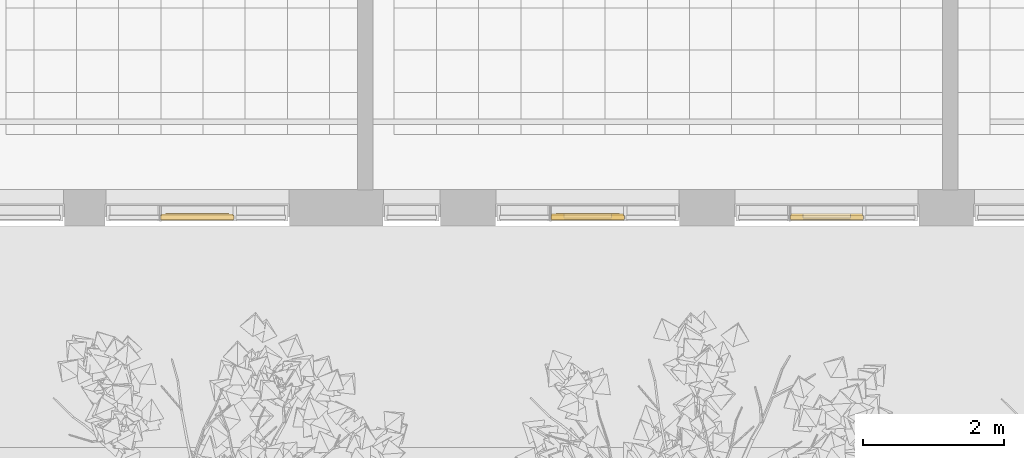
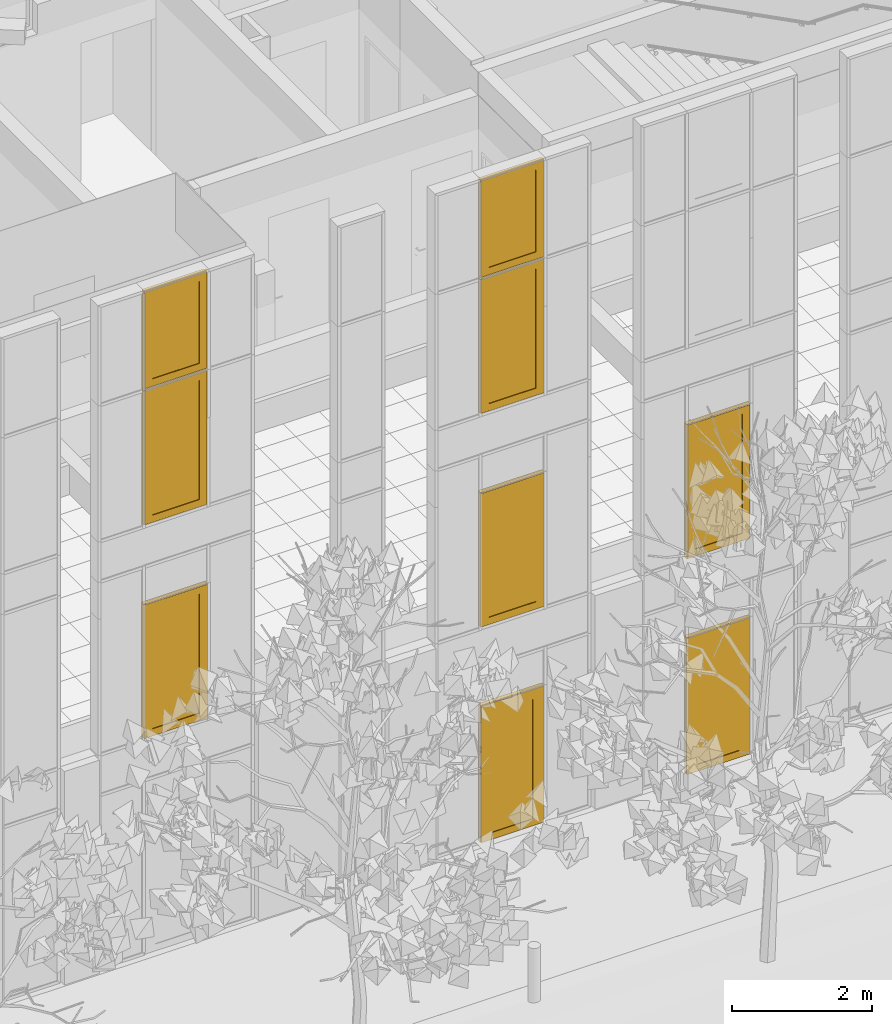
# One storey, part 148 of 246: 7 windows, 2 doors, 3 elements without a shape of their own.
"""IFC2X3 building model written with IfcOpenShell, lengths in millimetres."""

import ifcopenshell
import ifcopenshell.guid

model = None  # the IFC model being written
_history = None  # IfcOwnerHistory: only IFC2X3 demands one
_inside = {}  # id of a spatial element -> (the spatial element, [elements in it])
_under = {}  # id of a project, library or spatial element -> (it, [spatial elements below it])
_declared = {}  # id of a project -> (the project, [libraries it declares])
_typed = {}  # id of a type object -> (the type object, [elements of that type])
_made_of = {}  # id of a material, layer set ... -> (it, [elements and type objects made of it])


def new_model(schema):
    """Start an empty IFC model of exactly this schema.

    Asked for "IFC4X3", IfcOpenShell would pick the latest addendum, in which some entities
    have other attributes; the version numbers below select the first issue.
    IFC2X3 requires an IfcOwnerHistory on every rooted entity: one is made here for all.
    """
    global model, _history
    if schema == "IFC4X3":
        model = ifcopenshell.file(schema_version=(4, 3, 0, 0))
    else:
        model = ifcopenshell.file(schema=schema)
    _inside.clear()
    _under.clear()
    _declared.clear()
    _typed.clear()
    _made_of.clear()
    _history = None
    if model.schema == "IFC2X3":
        org = make("IfcOrganization", Name="unknown")
        user = make(
            "IfcPersonAndOrganization",
            ThePerson=make("IfcPerson", FamilyName="unknown"),
            TheOrganization=org,
        )
        app = make(
            "IfcApplication",
            ApplicationDeveloper=org,
            Version="unknown",
            ApplicationFullName="unknown",
            ApplicationIdentifier="unknown",
        )
        _history = make(
            "IfcOwnerHistory",
            OwningUser=user,
            OwningApplication=app,
            ChangeAction="ADDED",
            CreationDate=0,
        )
    return model


def make(cls, **values):
    """One entity of the class cls with the attributes given. An attribute that is None is left unset."""
    return model.create_entity(
        cls, **{name: value for name, value in values.items() if value is not None}
    )


def entity(cls, *values):
    """Any entity or typed value of the class cls, its attributes in the order of the schema. None: left unset."""
    e = model.create_entity(cls)
    for i, value in enumerate(values):
        if value is not None:
            e[i] = value
    return e


def rooted(cls, **values):
    """An entity with a GlobalId (a new one), such as an element, a storey or a relation."""
    return make(cls, GlobalId=ifcopenshell.guid.new(), OwnerHistory=_history, **values)


def si_unit(unit_type, name, prefix=None):
    """IfcSIUnit, for example si_unit("LENGTHUNIT", "METRE", prefix="MILLI")."""
    return make("IfcSIUnit", UnitType=unit_type, Prefix=prefix, Name=name)


def converted_unit(unit_type, name, factor, base, dimensions=None, offset=None):
    """IfcConversionBasedUnit, such as the inch: factor (a typed value) times the base unit."""
    return make(
        "IfcConversionBasedUnit"
        if offset is None
        else "IfcConversionBasedUnitWithOffset",
        ConversionOffset=offset,
        Dimensions=None
        if dimensions is None
        else entity("IfcDimensionalExponents", *dimensions),
        UnitType=unit_type,
        Name=name,
        ConversionFactor=make(
            "IfcMeasureWithUnit", ValueComponent=factor, UnitComponent=base
        ),
    )


def derived_unit(unit_type, elements):
    """IfcDerivedUnit: a product of units, each with its exponent."""
    return make(
        "IfcDerivedUnit",
        Elements=[
            make("IfcDerivedUnitElement", Unit=unit, Exponent=power)
            for unit, power in elements
        ],
        UnitType=unit_type,
    )


def money_unit(currency):
    """IfcMonetaryUnit."""
    return make("IfcMonetaryUnit", Currency=currency)


def assignment(units):
    """IfcUnitAssignment: the units of a project."""
    return None if units is None else make("IfcUnitAssignment", Units=units)


def point(xyz):
    """IfcCartesianPoint."""
    return None if xyz is None else make("IfcCartesianPoint", Coordinates=xyz)


def direction(xyz):
    """IfcDirection."""
    return None if xyz is None else make("IfcDirection", DirectionRatios=xyz)


def frame(location, z_axis=None, x_axis=None):
    """IfcAxis2Placement3D, a coordinate frame: its origin and axes. An axis left out is left unset."""
    return make(
        "IfcAxis2Placement3D",
        Location=point(location),
        Axis=direction(z_axis),
        RefDirection=direction(x_axis),
    )


def origin_with_axes():
    """The frame at (0, 0, 0) with the z axis (0, 0, 1) and the x axis (1, 0, 0) written out."""
    return frame((0.0, 0.0, 0.0), z_axis=(0.0, 0.0, 1.0), x_axis=(1.0, 0.0, 0.0))


def place(relative_to, where):
    """IfcLocalPlacement: puts the frame where relative to a parent placement (None: the world)."""
    return make(
        "IfcLocalPlacement", PlacementRelTo=relative_to, RelativePlacement=where
    )


def context(
    kind, dimensions, precision=None, world=None, true_north=None, identifier=None
):
    """IfcGeometricRepresentationContext, for example the 3D "Model" context."""
    return make(
        "IfcGeometricRepresentationContext",
        ContextIdentifier=identifier,
        ContextType=kind,
        CoordinateSpaceDimension=dimensions,
        Precision=precision,
        WorldCoordinateSystem=world,
        TrueNorth=true_north,
    )


def subcontext(parent, identifier, kind, view, scale=None):
    """IfcGeometricRepresentationSubContext, for example "Body" below "Model"."""
    return make(
        "IfcGeometricRepresentationSubContext",
        ContextIdentifier=identifier,
        ContextType=kind,
        ParentContext=parent,
        TargetScale=scale,
        TargetView=view,
    )


def project(units=None, contexts=None):
    """IfcProject with its units and contexts."""
    return rooted(
        "IfcProject",
        Name="project",
        RepresentationContexts=contexts,
        UnitsInContext=assignment(units),
    )


def spatial(cls, under=None, at=None, **own):
    """A site, building, storey or space (cls), placed at a placement, below another one or the project."""
    s = rooted(cls, ObjectPlacement=at, **own)
    if under is not None:
        _under.setdefault(under.id(), (under, []))[1].append(s)
    return s


def faces_of(points, faces, orient=None, outer=None):
    """IfcFace entities. A face is a list of loops; a loop is a list of indices into points, from 0.

    orient and outer hold one flag for each loop. By default every Orientation is true, the
    first loop of a face is its IfcFaceOuterBound and the others are IfcFaceBound.
    """
    made = []
    for i, loops in enumerate(faces):
        bounds = []
        for j, loop in enumerate(loops):
            is_outer = j == 0 if outer is None else outer[i][j]
            bounds.append(
                make(
                    "IfcFaceOuterBound" if is_outer else "IfcFaceBound",
                    Bound=make("IfcPolyLoop", Polygon=[points[k] for k in loop]),
                    Orientation=True if orient is None else orient[i][j],
                )
            )
        made.append(make("IfcFace", Bounds=bounds))
    return made


def open_shell(faces, orient=None, outer=None):
    """The faces of one IfcOpenShell. surface_model builds it on its shared points."""
    return ("IfcOpenShell", faces, orient, outer)


def faceted_brep(points, faces, orient=None, outer=None, voids=None):
    """IfcFacetedBrep: a solid bounded by flat faces; with voids (closed shells), ...WithVoids."""
    shared = [point(p) for p in points]
    hull = make("IfcClosedShell", CfsFaces=faces_of(shared, faces, orient, outer))
    if voids is None:
        return make("IfcFacetedBrep", Outer=hull)
    return make(
        "IfcFacetedBrepWithVoids",
        Outer=hull,
        Voids=[
            make(cls, CfsFaces=faces_of(shared, fs, o, b)) for cls, fs, o, b in voids
        ],
    )


def surface_model(cls, points, shells):
    """IfcFaceBasedSurfaceModel or IfcShellBasedSurfaceModel (cls): surfaces that need not close."""
    shared = [point(p) for p in points]
    made = [make(c, CfsFaces=faces_of(shared, fs, o, b)) for c, fs, o, b in shells]
    if cls == "IfcFaceBasedSurfaceModel":
        return make(cls, FbsmFaces=made)
    return make(cls, SbsmBoundary=made)


def shape(context_of_items, identifier, shape_type, items):
    """IfcShapeRepresentation: the items that make up one representation, for example the "Body"."""
    return make(
        "IfcShapeRepresentation",
        ContextOfItems=context_of_items,
        RepresentationIdentifier=identifier,
        RepresentationType=shape_type,
        Items=items,
    )


def source(mapping_origin, context_of_items, identifier, shape_type, items):
    """IfcRepresentationMap: a shape defined once, which mapped items show again and again."""
    return make(
        "IfcRepresentationMap",
        MappingOrigin=mapping_origin,
        MappedRepresentation=shape(context_of_items, identifier, shape_type, items),
    )


def transform(
    local_origin,
    x_axis=None,
    y_axis=None,
    z_axis=None,
    scale=None,
    scale2=None,
    scale3=None,
    uniform=True,
):
    """IfcCartesianTransformationOperator3D, or its non-uniform kind. x_axis, y_axis, z_axis: its Axis1, 2, 3."""
    if uniform:
        return make(
            "IfcCartesianTransformationOperator3D",
            Axis1=direction(x_axis),
            Axis2=direction(y_axis),
            LocalOrigin=point(local_origin),
            Scale=scale,
            Axis3=direction(z_axis),
        )
    return make(
        "IfcCartesianTransformationOperator3DnonUniform",
        Axis1=direction(x_axis),
        Axis2=direction(y_axis),
        LocalOrigin=point(local_origin),
        Scale=scale,
        Axis3=direction(z_axis),
        Scale2=scale2,
        Scale3=scale3,
    )


def mapped(mapping_source, mapping_target):
    """IfcMappedItem: shows the shape of a source again, moved by a transform."""
    return make(
        "IfcMappedItem", MappingSource=mapping_source, MappingTarget=mapping_target
    )


def material(Name=None, Category=None):
    """IfcMaterial."""
    return make("IfcMaterial", Name=Name, Category=Category)


def material_list(materials):
    """IfcMaterialList."""
    return make("IfcMaterialList", Materials=materials)


def made_of(thing, what):
    """Note that an element or type object is made of a material, layer set ...; save() writes the relation."""
    if what is not None:
        _made_of.setdefault(what.id(), (what, []))[1].append(thing)
    return thing


def type_object(cls, material=None, **own):
    """A type object (cls), such as IfcWallType, which elements share."""
    return made_of(rooted(cls, **own), material)


def element(
    cls,
    number,
    at=None,
    inside=None,
    cuts=None,
    type_object=None,
    material=None,
    context=None,
    identifier="Body",
    shape_type=None,
    held_by="IfcProductDefinitionShape",
    body=None,
    shapes=None,
    **own,
):
    """One element of the class cls, such as IfcWall. Its Tag is "e" and its number.

    at: its placement. inside: the storey or other place that contains it. cuts: it is an
    opening in that element (IfcRelVoidsElement). A single representation is given by context,
    identifier, shape_type and body (its items); several are given by shapes. held_by: the class
    of the entity that holds the representations. save() writes the other relations.
    """
    e = rooted(cls, Tag="e%d" % number, ObjectPlacement=at, **own)
    if body is not None:
        shapes = [shape(context, identifier, shape_type, body)]
    if shapes is not None:
        e.Representation = make(held_by, Representations=shapes)
    if inside is not None:
        _inside.setdefault(inside.id(), (inside, []))[1].append(e)
    if cuts is not None:
        rooted(
            "IfcRelVoidsElement", RelatingBuildingElement=cuts, RelatedOpeningElement=e
        )
    if type_object is not None:
        _typed.setdefault(type_object.id(), (type_object, []))[1].append(e)
    return made_of(e, material)


def aggregate(whole, parts):
    """IfcRelAggregates: a whole, such as a stair, and the parts it consists of."""
    return rooted("IfcRelAggregates", RelatingObject=whole, RelatedObjects=parts)


def save(model, path):
    """Write the relations noted so far, then the file.

    IfcRelAggregates (storeys below a building ...), IfcRelContainedInSpatialStructure (elements
    in a storey), IfcRelDefinesByType, IfcRelAssociatesMaterial and IfcRelDeclares: one each for
    every whole, place, type object, material and project.
    """
    for whole, parts in _under.values():
        aggregate(whole, parts)
    for where, things in _inside.values():
        rooted(
            "IfcRelContainedInSpatialStructure",
            RelatedElements=things,
            RelatingStructure=where,
        )
    for kind, things in _typed.values():
        rooted("IfcRelDefinesByType", RelatedObjects=things, RelatingType=kind)
    for what, things in _made_of.values():
        rooted("IfcRelAssociatesMaterial", RelatedObjects=things, RelatingMaterial=what)
    for by, libraries in _declared.values():
        rooted("IfcRelDeclares", RelatingContext=by, RelatedDefinitions=libraries)
    model.write(path)


model = new_model("IFC2X3")

# Units and contexts
model_context = context("Model", 3, precision=0.01, world=origin_with_axes(), true_north=direction((0.0, 1.0)))
body_context = subcontext(model_context, "Body", "Model", "MODEL_VIEW")
ifc_project = project(units=[si_unit("LENGTHUNIT", "METRE", prefix="MILLI"), si_unit("AREAUNIT", "SQUARE_METRE"), si_unit("VOLUMEUNIT", "CUBIC_METRE"), converted_unit("PLANEANGLEUNIT", "DEGREE", entity("IfcPlaneAngleMeasure", 0.0174532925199), si_unit("PLANEANGLEUNIT", "RADIAN"), dimensions=[0, 0, 0, 0, 0, 0, 0]), si_unit("SOLIDANGLEUNIT", "STERADIAN"), money_unit("EUR"), converted_unit("TIMEUNIT", "Year", entity("IfcTimeMeasure", 31556926.0), si_unit("TIMEUNIT", "SECOND"), dimensions=[0, 0, 1, 0, 0, 0, 0]), si_unit("MASSUNIT", "GRAM", prefix="KILO"), si_unit("THERMODYNAMICTEMPERATUREUNIT", "DEGREE_CELSIUS"), si_unit("LUMINOUSINTENSITYUNIT", "LUMEN"), si_unit("ENERGYUNIT", "JOULE", prefix="MEGA"), derived_unit("THERMALCONDUCTANCEUNIT", [(si_unit("POWERUNIT", "WATT"), 1), (si_unit("LENGTHUNIT", "METRE"), -1), (si_unit("THERMODYNAMICTEMPERATUREUNIT", "KELVIN"), -1)]), derived_unit("SPECIFICHEATCAPACITYUNIT", [(si_unit("ENERGYUNIT", "JOULE"), 1), (si_unit("MASSUNIT", "GRAM", prefix="KILO"), -1), (si_unit("THERMODYNAMICTEMPERATUREUNIT", "KELVIN"), -1)]), derived_unit("MASSDENSITYUNIT", [(si_unit("MASSUNIT", "GRAM", prefix="KILO"), 1), (si_unit("VOLUMEUNIT", "CUBIC_METRE"), -1)])], contexts=[model_context])

# Site, building, storey
site_placement = place(None, origin_with_axes())
site = spatial("IfcSite", under=ifc_project, at=site_placement, Name="L.Koidula tn 11b", CompositionType="ELEMENT")
building_placement = place(site_placement, origin_with_axes())
building = spatial("IfcBuilding", under=site, at=building_placement, Name="Rakvere Riigigümnaasium", CompositionType="ELEMENT")
storey_placement = place(building_placement, origin_with_axes())
storey = spatial("IfcBuildingStorey", under=building, at=storey_placement, Name="1.korrus 0,00", CompositionType="ELEMENT", Elevation=0.0)

# Curtain wall, door
curtain_wall_type = type_object("IfcCurtainWallType", Name="Curtain Wall Type", PredefinedType="NOTDEFINED")
curtain_wall_1_placement = place(storey_placement, frame((72896.908541, 5111.45334637, -8.09717227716e-06), z_axis=(0.0, 0.0, 1.0), x_axis=(1.0, 0.0, 0.0)))
curtain_wall_1 = element("IfcCurtainWall", 1, at=curtain_wall_1_placement, inside=storey, type_object=curtain_wall_type, Name="KLF-05-3B")
ifc_material_1 = material(Name="Alumiiniumprofiil (RAL 7021)")
ifc_material_2 = material(Name="Klaaspakett 3x ribikardinatega")
ifc_material_list = material_list([ifc_material_1, ifc_material_2])
door_style = type_object("IfcDoorStyle", Name="8 x 2351 x 54", ConstructionType="NOTDEFINED", OperationType="NOTDEFINED", ParameterTakesPrecedence=False, Sizeable=False)
shared_shape_1 = source(origin_with_axes(), body_context, "Body", "SurfaceModel", [
    surface_model("IfcShellBasedSurfaceModel", [(1045.0, 0.0, -53.0), (992.0, 0.0, -53.0), (992.0, 2322.0, -53.0), (1045.0, 2375.0, -53.0)], [open_shell([[[0, 1, 2, 3]]])]),
    surface_model("IfcShellBasedSurfaceModel", [(25.0, 2375.0, -53.0), (1045.0, 2375.0, -53.0), (992.0, 2322.0, -53.0), (78.0, 2322.0, -53.0)], [open_shell([[[0, 1, 2, 3]]])]),
    surface_model("IfcShellBasedSurfaceModel", [(25.0, 0.0, -53.0), (25.0, 2375.0, -53.0), (78.0, 2322.0, -53.0), (78.0, 0.0, -53.0)], [open_shell([[[0, 1, 2, 3]]])]),
    faceted_brep([(1045.0, 0.0, -53.0), (1045.0, 2375.0, -53.0), (1045.0, 2375.0, 37.0), (1045.0, 0.0, 37.0), (992.0, 0.0, -53.0), (992.0, 2322.0, -53.0), (992.0, 2322.0, 37.0), (992.0, 0.0, 37.0)], [[[0, 1, 2, 3]], [[0, 4, 5, 1]], [[1, 5, 6, 2]], [[3, 2, 6, 7]], [[4, 0, 3, 7]], [[5, 4, 7, 6]]]),
    faceted_brep([(25.0, 2375.0, -53.0), (78.0, 2322.0, -53.0), (78.0, 2322.0, 37.0), (25.0, 2375.0, 37.0), (1045.0, 2375.0, -53.0), (992.0, 2322.0, -53.0), (992.0, 2322.0, 37.0), (1045.0, 2375.0, 37.0)], [[[0, 1, 2, 3]], [[0, 4, 5, 1]], [[1, 5, 6, 2]], [[3, 2, 6, 7]], [[4, 0, 3, 7]], [[5, 4, 7, 6]]]),
    faceted_brep([(25.0, 0.0, -53.0), (78.0, 0.0, -53.0), (78.0, 0.0, 37.0), (25.0, 0.0, 37.0), (25.0, 2375.0, -53.0), (78.0, 2322.0, -53.0), (78.0, 2322.0, 37.0), (25.0, 2375.0, 37.0)], [[[0, 1, 2, 3]], [[0, 4, 5, 1]], [[1, 5, 6, 2]], [[3, 2, 6, 7]], [[4, 0, 3, 7]], [[5, 4, 7, 6]]]),
    faceted_brep([(1058.0, 0.0, -27.0), (1058.0, 2388.0, -27.0), (1058.0, 2388.0, 27.0), (1058.0, 0.0, 27.0), (1045.0, 0.0, -27.0), (1045.0, 2375.0, -27.0), (1045.0, 2375.0, 27.0), (1045.0, 0.0, 27.0)], [[[0, 1, 2, 3]], [[0, 4, 5, 1]], [[1, 5, 6, 2]], [[3, 2, 6, 7]], [[4, 0, 3, 7]], [[5, 4, 7, 6]]]),
    faceted_brep([(1058.0, 2388.0, -27.0), (12.0, 2388.0, -27.0), (12.0, 2388.0, 27.0), (1058.0, 2388.0, 27.0), (1045.0, 2375.0, -27.0), (25.0, 2375.0, -27.0), (25.0, 2375.0, 27.0), (1045.0, 2375.0, 27.0)], [[[0, 1, 2, 3]], [[0, 4, 5, 1]], [[1, 5, 6, 2]], [[3, 2, 6, 7]], [[4, 0, 3, 7]], [[5, 4, 7, 6]]]),
    faceted_brep([(12.0, 2388.0, -27.0), (12.0, 0.0, -27.0), (12.0, 0.0, 27.0), (12.0, 2388.0, 27.0), (25.0, 2375.0, -27.0), (25.0, 0.0, -27.0), (25.0, 0.0, 27.0), (25.0, 2375.0, 27.0)], [[[0, 1, 2, 3]], [[0, 4, 5, 1]], [[1, 5, 6, 2]], [[3, 2, 6, 7]], [[4, 0, 3, 7]], [[5, 4, 7, 6]]]),
    faceted_brep([(197.0, 119.0, -53.0), (197.0, 2203.0, -53.0), (197.0, 2203.0, 37.0), (197.0, 119.0, 37.0), (78.0, 0.0, -53.0), (78.0, 2322.0, -53.0), (78.0, 2322.0, 37.0), (78.0, 0.0, 37.0)], [[[0, 1, 2, 3]], [[0, 4, 5, 1]], [[1, 5, 6, 2]], [[3, 2, 6, 7]], [[4, 0, 3, 7]], [[5, 4, 7, 6]]]),
    faceted_brep([(992.0, 0.0, -53.0), (992.0, 2322.0, -53.0), (992.0, 2322.0, 37.0), (992.0, 0.0, 37.0), (873.0, 119.0, -53.0), (873.0, 2203.0, -53.0), (873.0, 2203.0, 37.0), (873.0, 119.0, 37.0)], [[[0, 1, 2, 3]], [[0, 4, 5, 1]], [[1, 5, 6, 2]], [[3, 2, 6, 7]], [[4, 0, 3, 7]], [[5, 4, 7, 6]]]),
    faceted_brep([(992.0, 0.0, -53.0), (873.0, 119.0, -53.0), (873.0, 119.0, 37.0), (992.0, 0.0, 37.0), (78.0, 0.0, -53.0), (197.0, 119.0, -53.0), (197.0, 119.0, 37.0), (78.0, 0.0, 37.0)], [[[0, 1, 2, 3]], [[0, 4, 5, 1]], [[1, 5, 6, 2]], [[3, 2, 6, 7]], [[4, 0, 3, 7]], [[5, 4, 7, 6]]]),
    faceted_brep([(78.0, 2322.0, -53.0), (197.0, 2203.0, -53.0), (197.0, 2203.0, 37.0), (78.0, 2322.0, 37.0), (992.0, 2322.0, -53.0), (873.0, 2203.0, -53.0), (873.0, 2203.0, 37.0), (992.0, 2322.0, 37.0)], [[[0, 1, 2, 3]], [[0, 4, 5, 1]], [[1, 5, 6, 2]], [[3, 2, 6, 7]], [[4, 0, 3, 7]], [[5, 4, 7, 6]]]),
    faceted_brep([(197.0, 119.0, 11.0), (873.0, 119.0, 11.0), (873.0, 119.0, 27.0), (197.0, 119.0, 27.0), (197.0, 2203.0, 11.0), (873.0, 2203.0, 11.0), (873.0, 2203.0, 27.0), (197.0, 2203.0, 27.0)], [[[0, 1, 2, 3]], [[0, 4, 5, 1]], [[1, 5, 6, 2]], [[3, 2, 6, 7]], [[4, 0, 3, 7]], [[5, 4, 7, 6]]]),
])
door_1_placement = place(curtain_wall_1_placement, frame((-68.7275395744, 0.0, 1200.0), z_axis=(0.0, 0.0, 1.0), x_axis=(-1.0, 0.0, 0.0)))
door_1 = element("IfcDoor", 2, at=door_1_placement, type_object=door_style, material=ifc_material_list, Name="KLF-05-VU-2", ObjectType="DOOR", context=body_context, shape_type="MappedRepresentation", body=[
    mapped(shared_shape_1, transform((363.181089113, 0.0, -1200.0), x_axis=(-1.0, 0.0, 0.0), y_axis=(0.0, 0.0, 1.0), z_axis=(0.0, 1.0, 0.0))),
])

curtain_wall_2_placement = place(storey_placement, frame((69496.9084811, 5111.45334637, -8.09717186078e-06), z_axis=(0.0, 0.0, 1.0), x_axis=(1.0, 0.0, 0.0)))
curtain_wall_2 = element("IfcCurtainWall", 3, at=curtain_wall_2_placement, inside=storey, type_object=curtain_wall_type, Name="KLF-05-3B")
door_2_placement = place(curtain_wall_2_placement, frame((-68.7275395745, 0.0, 1200.0), z_axis=(0.0, 0.0, 1.0), x_axis=(-1.0, 0.0, 0.0)))
door_2 = element("IfcDoor", 4, at=door_2_placement, type_object=door_style, material=ifc_material_list, Name="KLF-05-VU-2", ObjectType="DOOR", context=body_context, shape_type="MappedRepresentation", body=[
    mapped(shared_shape_1, transform((363.181089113, 0.0, -1200.0), x_axis=(-1.0, 0.0, 0.0), y_axis=(0.0, 0.0, 1.0), z_axis=(0.0, 1.0, 0.0))),
])

# Window
window_style_1 = type_object("IfcWindowStyle", Name="8 x 2351 x 65", ConstructionType="NOTDEFINED", OperationType="NOTDEFINED", ParameterTakesPrecedence=False, Sizeable=False)
shared_shape_2 = source(origin_with_axes(), body_context, "Body", "SurfaceModel", [
    surface_model("IfcShellBasedSurfaceModel", [(24.9999850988, 24.9999850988, 43.5), (83.9999850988, 83.9999850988, 43.5), (986.0, 83.9999850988, 43.5), (1045.0, 24.9999850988, 43.5)], [open_shell([[[0, 1, 2, 3]]])]),
    surface_model("IfcShellBasedSurfaceModel", [(1045.0, 24.9999850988, 43.5), (986.0, 83.9999850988, 43.5), (986.0, 2291.0000149, 43.5), (1045.0, 2350.0000149, 43.5)], [open_shell([[[0, 1, 2, 3]]])]),
    surface_model("IfcShellBasedSurfaceModel", [(24.9999850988, 2350.0000149, 43.5), (1045.0, 2350.0000149, 43.5), (986.0, 2291.0000149, 43.5), (83.9999850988, 2291.0000149, 43.5)], [open_shell([[[0, 1, 2, 3]]])]),
    surface_model("IfcShellBasedSurfaceModel", [(24.9999850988, 24.9999850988, 43.5), (24.9999850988, 2350.0000149, 43.5), (83.9999850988, 2291.0000149, 43.5), (83.9999850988, 83.9999850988, 43.5)], [open_shell([[[0, 1, 2, 3]]])]),
    faceted_brep([(24.9999850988, 24.9999850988, -45.5), (1045.0, 24.9999850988, -45.5), (1045.0, 24.9999850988, 43.5), (24.9999850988, 24.9999850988, 43.5), (83.9999850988, 83.9999850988, -45.5), (986.0, 83.9999850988, -45.5), (986.0, 83.9999850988, 43.5), (83.9999850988, 83.9999850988, 43.5)], [[[0, 1, 2, 3]], [[0, 4, 5, 1]], [[1, 5, 6, 2]], [[3, 2, 6, 7]], [[4, 0, 3, 7]], [[5, 4, 7, 6]]]),
    faceted_brep([(1045.0, 24.9999850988, -45.5), (1045.0, 2350.0000149, -45.5), (1045.0, 2350.0000149, 43.5), (1045.0, 24.9999850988, 43.5), (986.0, 83.9999850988, -45.5), (986.0, 2291.0000149, -45.5), (986.0, 2291.0000149, 43.5), (986.0, 83.9999850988, 43.5)], [[[0, 1, 2, 3]], [[0, 4, 5, 1]], [[1, 5, 6, 2]], [[3, 2, 6, 7]], [[4, 0, 3, 7]], [[5, 4, 7, 6]]]),
    faceted_brep([(24.9999850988, 2350.0000149, -45.5), (83.9999850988, 2291.0000149, -45.5), (83.9999850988, 2291.0000149, 43.5), (24.9999850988, 2350.0000149, 43.5), (1045.0, 2350.0000149, -45.5), (986.0, 2291.0000149, -45.5), (986.0, 2291.0000149, 43.5), (1045.0, 2350.0000149, 43.5)], [[[0, 1, 2, 3]], [[0, 4, 5, 1]], [[1, 5, 6, 2]], [[3, 2, 6, 7]], [[4, 0, 3, 7]], [[5, 4, 7, 6]]]),
    faceted_brep([(24.9999850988, 24.9999850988, -45.5), (83.9999850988, 83.9999850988, -45.5), (83.9999850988, 83.9999850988, 43.5), (24.9999850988, 24.9999850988, 43.5), (24.9999850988, 2350.0000149, -45.5), (83.9999850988, 2291.0000149, -45.5), (83.9999850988, 2291.0000149, 43.5), (24.9999850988, 2350.0000149, 43.5)], [[[0, 1, 2, 3]], [[0, 4, 5, 1]], [[1, 5, 6, 2]], [[3, 2, 6, 7]], [[4, 0, 3, 7]], [[5, 4, 7, 6]]]),
    faceted_brep([(11.9999985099, 11.9999985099, -32.5), (1057.99998659, 11.9999985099, -32.5), (1057.99998659, 11.9999985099, 32.5), (11.9999985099, 11.9999985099, 32.5), (24.9999850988, 24.9999850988, -32.5), (1045.0, 24.9999850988, -32.5), (1045.0, 24.9999850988, 32.5), (24.9999850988, 24.9999850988, 32.5)], [[[0, 1, 2, 3]], [[0, 4, 5, 1]], [[1, 5, 6, 2]], [[3, 2, 6, 7]], [[4, 0, 3, 7]], [[5, 4, 7, 6]]]),
    faceted_brep([(1057.99998659, 11.9999985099, -32.5), (1057.99998659, 2363.00000149, -32.5), (1057.99998659, 2363.00000149, 32.5), (1057.99998659, 11.9999985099, 32.5), (1045.0, 24.9999850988, -32.5), (1045.0, 2350.0000149, -32.5), (1045.0, 2350.0000149, 32.5), (1045.0, 24.9999850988, 32.5)], [[[0, 1, 2, 3]], [[0, 4, 5, 1]], [[1, 5, 6, 2]], [[3, 2, 6, 7]], [[4, 0, 3, 7]], [[5, 4, 7, 6]]]),
    faceted_brep([(1057.99998659, 2363.00000149, -32.5), (11.9999985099, 2363.00000149, -32.5), (11.9999985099, 2363.00000149, 32.5), (1057.99998659, 2363.00000149, 32.5), (1045.0, 2350.0000149, -32.5), (24.9999850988, 2350.0000149, -32.5), (24.9999850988, 2350.0000149, 32.5), (1045.0, 2350.0000149, 32.5)], [[[0, 1, 2, 3]], [[0, 4, 5, 1]], [[1, 5, 6, 2]], [[3, 2, 6, 7]], [[4, 0, 3, 7]], [[5, 4, 7, 6]]]),
    faceted_brep([(11.9999985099, 2363.00000149, -32.5), (11.9999985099, 11.9999985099, -32.5), (11.9999985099, 11.9999985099, 32.5), (11.9999985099, 2363.00000149, 32.5), (24.9999850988, 2350.0000149, -32.5), (24.9999850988, 24.9999850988, -32.5), (24.9999850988, 24.9999850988, 32.5), (24.9999850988, 2350.0000149, 32.5)], [[[0, 1, 2, 3]], [[0, 4, 5, 1]], [[1, 5, 6, 2]], [[3, 2, 6, 7]], [[4, 0, 3, 7]], [[5, 4, 7, 6]]]),
    faceted_brep([(146.999985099, 146.999985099, 43.5), (146.999985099, 146.999985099, -56.5), (146.999985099, 2228.0000149, -56.5), (146.999985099, 2228.0000149, 43.5), (83.9999850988, 83.9999850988, 43.5), (83.9999850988, 83.9999850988, -56.5), (83.9999850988, 2291.0000149, -56.5), (83.9999850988, 2291.0000149, 43.5)], [[[0, 1, 2, 3]], [[4, 5, 1, 0]], [[1, 5, 6, 2]], [[3, 2, 6, 7]], [[0, 3, 7, 4]], [[7, 6, 5, 4]]]),
    faceted_brep([(986.0, 83.9999850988, 43.5), (986.0, 83.9999850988, -56.5), (986.0, 2291.0000149, -56.5), (986.0, 2291.0000149, 43.5), (923.0, 146.999985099, 43.5), (923.0, 146.999985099, -56.5), (923.0, 2228.0000149, -56.5), (923.0, 2228.0000149, 43.5)], [[[0, 1, 2, 3]], [[4, 5, 1, 0]], [[1, 5, 6, 2]], [[3, 2, 6, 7]], [[0, 3, 7, 4]], [[7, 6, 5, 4]]]),
    faceted_brep([(986.0, 83.9999850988, 43.5), (986.0, 83.9999850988, -56.5), (923.0, 146.999985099, -56.5), (923.0, 146.999985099, 43.5), (83.9999850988, 83.9999850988, 43.5), (83.9999850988, 83.9999850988, -56.5), (146.999985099, 146.999985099, -56.5), (146.999985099, 146.999985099, 43.5)], [[[0, 1, 2, 3]], [[4, 5, 1, 0]], [[1, 5, 6, 2]], [[3, 2, 6, 7]], [[0, 3, 7, 4]], [[7, 6, 5, 4]]]),
    faceted_brep([(83.9999850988, 2291.0000149, 43.5), (83.9999850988, 2291.0000149, -56.5), (146.999985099, 2228.0000149, -56.5), (146.999985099, 2228.0000149, 43.5), (986.0, 2291.0000149, 43.5), (986.0, 2291.0000149, -56.5), (923.0, 2228.0000149, -56.5), (923.0, 2228.0000149, 43.5)], [[[0, 1, 2, 3]], [[4, 5, 1, 0]], [[1, 5, 6, 2]], [[3, 2, 6, 7]], [[0, 3, 7, 4]], [[7, 6, 5, 4]]]),
    faceted_brep([(146.999985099, 146.999985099, 32.5), (146.999985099, 146.999985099, -32.5), (923.0, 146.999985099, -32.5), (923.0, 146.999985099, 32.5), (146.999985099, 2228.0000149, 32.5), (146.999985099, 2228.0000149, -32.5), (923.0, 2228.0000149, -32.5), (923.0, 2228.0000149, 32.5)], [[[0, 1, 2, 3]], [[4, 5, 1, 0]], [[1, 5, 6, 2]], [[3, 2, 6, 7]], [[0, 3, 7, 4]], [[7, 6, 5, 4]]]),
])
window_1_placement = place(curtain_wall_1_placement, frame((-68.7275395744, 0.0, 4932.5), z_axis=(0.0, 0.0, 1.0), x_axis=(-1.0, 0.0, 0.0)))
window_1 = element("IfcWindow", 5, at=window_1_placement, type_object=window_style_1, material=ifc_material_list, Name="KLF-05-A-1", ObjectType="WINDOW", context=body_context, shape_type="MappedRepresentation", body=[
    mapped(shared_shape_2, transform((363.181089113, 0.0, -1187.5), x_axis=(-1.0, 0.0, 0.0), y_axis=(0.0, 0.0, 1.0), z_axis=(0.0, 1.0, 0.0))),
])

aggregate(curtain_wall_1, [door_1, window_1])

window_2_placement = place(curtain_wall_2_placement, frame((-68.7275395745, 0.0, 4932.5), z_axis=(0.0, 0.0, 1.0), x_axis=(-1.0, 0.0, 0.0)))
window_2 = element("IfcWindow", 6, at=window_2_placement, type_object=window_style_1, material=ifc_material_list, Name="KLF-05-A-1", ObjectType="WINDOW", context=body_context, shape_type="MappedRepresentation", body=[
    mapped(shared_shape_2, transform((363.181089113, 0.0, -1187.5), x_axis=(-1.0, 0.0, 0.0), y_axis=(0.0, 0.0, 1.0), z_axis=(0.0, 1.0, 0.0))),
])

# Curtain wall, window
curtain_wall_3_placement = place(storey_placement, frame((63946.9084811, 5111.45334637, -8.0971711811e-06), z_axis=(0.0, 0.0, 1.0), x_axis=(1.0, 0.0, 0.0)))
curtain_wall_3 = element("IfcCurtainWall", 7, at=curtain_wall_3_placement, inside=storey, type_object=curtain_wall_type, Name="KLF-05-3B")
window_3_placement = place(curtain_wall_3_placement, frame((-68.7275395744, 0.0, 4932.5), z_axis=(0.0, 0.0, 1.0), x_axis=(-1.0, 0.0, 0.0)))
window_3 = element("IfcWindow", 8, at=window_3_placement, type_object=window_style_1, material=ifc_material_list, Name="KLF-05-A-1", ObjectType="WINDOW", context=body_context, shape_type="MappedRepresentation", body=[
    mapped(shared_shape_2, transform((363.181089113, 0.0, -1187.5), x_axis=(-1.0, 0.0, 0.0), y_axis=(0.0, 0.0, 1.0), z_axis=(0.0, 1.0, 0.0))),
])

# Window
window_style_2 = type_object("IfcWindowStyle", Name="1046 x 2351 x 54", ConstructionType="NOTDEFINED", OperationType="NOTDEFINED", ParameterTakesPrecedence=False, Sizeable=False)
shared_shape_3 = source(origin_with_axes(), body_context, "Body", "SurfaceModel", [
    surface_model("IfcShellBasedSurfaceModel", [(24.9999850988, 24.9999850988, 38.0), (83.9999850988, 83.9999850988, 38.0), (986.0, 83.9999850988, 38.0), (1045.0, 24.9999850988, 38.0)], [open_shell([[[0, 1, 2, 3]]])]),
    surface_model("IfcShellBasedSurfaceModel", [(1045.0, 24.9999850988, 38.0), (986.0, 83.9999850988, 38.0), (986.0, 2291.0000149, 38.0), (1045.0, 2350.0000149, 38.0)], [open_shell([[[0, 1, 2, 3]]])]),
    surface_model("IfcShellBasedSurfaceModel", [(24.9999850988, 2350.0000149, 38.0), (1045.0, 2350.0000149, 38.0), (986.0, 2291.0000149, 38.0), (83.9999850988, 2291.0000149, 38.0)], [open_shell([[[0, 1, 2, 3]]])]),
    surface_model("IfcShellBasedSurfaceModel", [(24.9999850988, 24.9999850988, 38.0), (24.9999850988, 2350.0000149, 38.0), (83.9999850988, 2291.0000149, 38.0), (83.9999850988, 83.9999850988, 38.0)], [open_shell([[[0, 1, 2, 3]]])]),
    faceted_brep([(24.9999850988, 24.9999850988, -51.0), (1045.0, 24.9999850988, -51.0), (1045.0, 24.9999850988, 38.0), (24.9999850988, 24.9999850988, 38.0), (83.9999850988, 83.9999850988, -51.0), (986.0, 83.9999850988, -51.0), (986.0, 83.9999850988, 38.0), (83.9999850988, 83.9999850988, 38.0)], [[[0, 1, 2, 3]], [[0, 4, 5, 1]], [[1, 5, 6, 2]], [[3, 2, 6, 7]], [[4, 0, 3, 7]], [[5, 4, 7, 6]]]),
    faceted_brep([(1045.0, 24.9999850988, -51.0), (1045.0, 2350.0000149, -51.0), (1045.0, 2350.0000149, 38.0), (1045.0, 24.9999850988, 38.0), (986.0, 83.9999850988, -51.0), (986.0, 2291.0000149, -51.0), (986.0, 2291.0000149, 38.0), (986.0, 83.9999850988, 38.0)], [[[0, 1, 2, 3]], [[0, 4, 5, 1]], [[1, 5, 6, 2]], [[3, 2, 6, 7]], [[4, 0, 3, 7]], [[5, 4, 7, 6]]]),
    faceted_brep([(24.9999850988, 2350.0000149, -51.0), (83.9999850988, 2291.0000149, -51.0), (83.9999850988, 2291.0000149, 38.0), (24.9999850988, 2350.0000149, 38.0), (1045.0, 2350.0000149, -51.0), (986.0, 2291.0000149, -51.0), (986.0, 2291.0000149, 38.0), (1045.0, 2350.0000149, 38.0)], [[[0, 1, 2, 3]], [[0, 4, 5, 1]], [[1, 5, 6, 2]], [[3, 2, 6, 7]], [[4, 0, 3, 7]], [[5, 4, 7, 6]]]),
    faceted_brep([(24.9999850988, 24.9999850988, -51.0), (83.9999850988, 83.9999850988, -51.0), (83.9999850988, 83.9999850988, 38.0), (24.9999850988, 24.9999850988, 38.0), (24.9999850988, 2350.0000149, -51.0), (83.9999850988, 2291.0000149, -51.0), (83.9999850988, 2291.0000149, 38.0), (24.9999850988, 2350.0000149, 38.0)], [[[0, 1, 2, 3]], [[0, 4, 5, 1]], [[1, 5, 6, 2]], [[3, 2, 6, 7]], [[4, 0, 3, 7]], [[5, 4, 7, 6]]]),
    faceted_brep([(11.9999985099, 11.9999985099, -27.0), (1057.99998659, 11.9999985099, -27.0), (1057.99998659, 11.9999985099, 27.0), (11.9999985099, 11.9999985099, 27.0), (24.9999850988, 24.9999850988, -27.0), (1045.0, 24.9999850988, -27.0), (1045.0, 24.9999850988, 27.0), (24.9999850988, 24.9999850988, 27.0)], [[[0, 1, 2, 3]], [[0, 4, 5, 1]], [[1, 5, 6, 2]], [[3, 2, 6, 7]], [[4, 0, 3, 7]], [[5, 4, 7, 6]]]),
    faceted_brep([(1057.99998659, 11.9999985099, -27.0), (1057.99998659, 2363.00000149, -27.0), (1057.99998659, 2363.00000149, 27.0), (1057.99998659, 11.9999985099, 27.0), (1045.0, 24.9999850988, -27.0), (1045.0, 2350.0000149, -27.0), (1045.0, 2350.0000149, 27.0), (1045.0, 24.9999850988, 27.0)], [[[0, 1, 2, 3]], [[0, 4, 5, 1]], [[1, 5, 6, 2]], [[3, 2, 6, 7]], [[4, 0, 3, 7]], [[5, 4, 7, 6]]]),
    faceted_brep([(1057.99998659, 2363.00000149, -27.0), (11.9999985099, 2363.00000149, -27.0), (11.9999985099, 2363.00000149, 27.0), (1057.99998659, 2363.00000149, 27.0), (1045.0, 2350.0000149, -27.0), (24.9999850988, 2350.0000149, -27.0), (24.9999850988, 2350.0000149, 27.0), (1045.0, 2350.0000149, 27.0)], [[[0, 1, 2, 3]], [[0, 4, 5, 1]], [[1, 5, 6, 2]], [[3, 2, 6, 7]], [[4, 0, 3, 7]], [[5, 4, 7, 6]]]),
    faceted_brep([(11.9999985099, 2363.00000149, -27.0), (11.9999985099, 11.9999985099, -27.0), (11.9999985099, 11.9999985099, 27.0), (11.9999985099, 2363.00000149, 27.0), (24.9999850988, 2350.0000149, -27.0), (24.9999850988, 24.9999850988, -27.0), (24.9999850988, 24.9999850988, 27.0), (24.9999850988, 2350.0000149, 27.0)], [[[0, 1, 2, 3]], [[0, 4, 5, 1]], [[1, 5, 6, 2]], [[3, 2, 6, 7]], [[4, 0, 3, 7]], [[5, 4, 7, 6]]]),
    faceted_brep([(146.999985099, 146.999985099, 38.0), (146.999985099, 146.999985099, -62.0), (146.999985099, 2228.0000149, -62.0), (146.999985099, 2228.0000149, 38.0), (83.9999850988, 83.9999850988, 38.0), (83.9999850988, 83.9999850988, -62.0), (83.9999850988, 2291.0000149, -62.0), (83.9999850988, 2291.0000149, 38.0)], [[[0, 1, 2, 3]], [[4, 5, 1, 0]], [[1, 5, 6, 2]], [[3, 2, 6, 7]], [[0, 3, 7, 4]], [[7, 6, 5, 4]]]),
    faceted_brep([(986.0, 83.9999850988, 38.0), (986.0, 83.9999850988, -62.0), (986.0, 2291.0000149, -62.0), (986.0, 2291.0000149, 38.0), (923.0, 146.999985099, 38.0), (923.0, 146.999985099, -62.0), (923.0, 2228.0000149, -62.0), (923.0, 2228.0000149, 38.0)], [[[0, 1, 2, 3]], [[4, 5, 1, 0]], [[1, 5, 6, 2]], [[3, 2, 6, 7]], [[0, 3, 7, 4]], [[7, 6, 5, 4]]]),
    faceted_brep([(986.0, 83.9999850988, 38.0), (986.0, 83.9999850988, -62.0), (923.0, 146.999985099, -62.0), (923.0, 146.999985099, 38.0), (83.9999850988, 83.9999850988, 38.0), (83.9999850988, 83.9999850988, -62.0), (146.999985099, 146.999985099, -62.0), (146.999985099, 146.999985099, 38.0)], [[[0, 1, 2, 3]], [[4, 5, 1, 0]], [[1, 5, 6, 2]], [[3, 2, 6, 7]], [[0, 3, 7, 4]], [[7, 6, 5, 4]]]),
    faceted_brep([(83.9999850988, 2291.0000149, 38.0), (83.9999850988, 2291.0000149, -62.0), (146.999985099, 2228.0000149, -62.0), (146.999985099, 2228.0000149, 38.0), (986.0, 2291.0000149, 38.0), (986.0, 2291.0000149, -62.0), (923.0, 2228.0000149, -62.0), (923.0, 2228.0000149, 38.0)], [[[0, 1, 2, 3]], [[4, 5, 1, 0]], [[1, 5, 6, 2]], [[3, 2, 6, 7]], [[0, 3, 7, 4]], [[7, 6, 5, 4]]]),
    faceted_brep([(146.999985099, 146.999985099, 27.0), (146.999985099, 146.999985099, 11.0), (923.0, 146.999985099, 11.0), (923.0, 146.999985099, 27.0), (146.999985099, 2228.0000149, 27.0), (146.999985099, 2228.0000149, 11.0), (923.0, 2228.0000149, 11.0), (923.0, 2228.0000149, 27.0)], [[[0, 1, 2, 3]], [[4, 5, 1, 0]], [[1, 5, 6, 2]], [[3, 2, 6, 7]], [[0, 3, 7, 4]], [[7, 6, 5, 4]]]),
])
window_4_placement = place(curtain_wall_2_placement, frame((106.348582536, 0.0, 8512.5), z_axis=(0.0, 0.0, 1.0), x_axis=(-1.0, 0.0, 0.0)))
window_4 = element("IfcWindow", 9, at=window_4_placement, type_object=window_style_2, material=ifc_material_list, Name="KLF-05-A-1", ObjectType="WINDOW", context=body_context, shape_type="MappedRepresentation", body=[
    mapped(shared_shape_3, transform((538.257211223, 0.0, -1047.5), x_axis=(-1.0, 0.0, 0.0), y_axis=(0.0, 0.0, 1.0), z_axis=(0.0, 1.0, 0.0))),
])

window_5_placement = place(curtain_wall_3_placement, frame((106.348582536, 0.0, 8512.5), z_axis=(0.0, 0.0, 1.0), x_axis=(-1.0, 0.0, 0.0)))
window_5 = element("IfcWindow", 10, at=window_5_placement, type_object=window_style_2, material=ifc_material_list, Name="KLF-05-A-1", ObjectType="WINDOW", context=body_context, shape_type="MappedRepresentation", body=[
    mapped(shared_shape_3, transform((538.257211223, 0.0, -1047.5), x_axis=(-1.0, 0.0, 0.0), y_axis=(0.0, 0.0, 1.0), z_axis=(0.0, 1.0, 0.0))),
])

window_style_3 = type_object("IfcWindowStyle", Name="1046 x 1701 x 54", ConstructionType="NOTDEFINED", OperationType="NOTDEFINED", ParameterTakesPrecedence=False, Sizeable=False)
shared_shape_4 = source(origin_with_axes(), body_context, "Body", "SurfaceModel", [
    surface_model("IfcShellBasedSurfaceModel", [(24.9999968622, 24.9999968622, 38.0), (83.9999968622, 83.9999968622, 38.0), (986.000009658, 83.9999968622, 38.0), (1045.00000966, 24.9999968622, 38.0)], [open_shell([[[0, 1, 2, 3]]])]),
    surface_model("IfcShellBasedSurfaceModel", [(1045.00000966, 24.9999968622, 38.0), (986.000009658, 83.9999968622, 38.0), (986.000009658, 1641.0000474, 38.0), (1045.00000966, 1700.0000474, 38.0)], [open_shell([[[0, 1, 2, 3]]])]),
    surface_model("IfcShellBasedSurfaceModel", [(24.9999968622, 1700.0000474, 38.0), (1045.00000966, 1700.0000474, 38.0), (986.000009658, 1641.0000474, 38.0), (83.9999968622, 1641.0000474, 38.0)], [open_shell([[[0, 1, 2, 3]]])]),
    surface_model("IfcShellBasedSurfaceModel", [(24.9999968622, 24.9999968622, 38.0), (24.9999968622, 1700.0000474, 38.0), (83.9999968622, 1641.0000474, 38.0), (83.9999968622, 83.9999968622, 38.0)], [open_shell([[[0, 1, 2, 3]]])]),
    faceted_brep([(24.9999968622, 24.9999968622, -51.0), (1045.00000966, 24.9999968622, -51.0), (1045.00000966, 24.9999968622, 38.0), (24.9999968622, 24.9999968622, 38.0), (83.9999968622, 83.9999968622, -51.0), (986.000009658, 83.9999968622, -51.0), (986.000009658, 83.9999968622, 38.0), (83.9999968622, 83.9999968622, 38.0)], [[[0, 1, 2, 3]], [[0, 4, 5, 1]], [[1, 5, 6, 2]], [[3, 2, 6, 7]], [[4, 0, 3, 7]], [[5, 4, 7, 6]]]),
    faceted_brep([(1045.00000966, 24.9999968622, -51.0), (1045.00000966, 1700.0000474, -51.0), (1045.00000966, 1700.0000474, 38.0), (1045.00000966, 24.9999968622, 38.0), (986.000009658, 83.9999968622, -51.0), (986.000009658, 1641.0000474, -51.0), (986.000009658, 1641.0000474, 38.0), (986.000009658, 83.9999968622, 38.0)], [[[0, 1, 2, 3]], [[0, 4, 5, 1]], [[1, 5, 6, 2]], [[3, 2, 6, 7]], [[4, 0, 3, 7]], [[5, 4, 7, 6]]]),
    faceted_brep([(24.9999968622, 1700.0000474, -51.0), (83.9999968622, 1641.0000474, -51.0), (83.9999968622, 1641.0000474, 38.0), (24.9999968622, 1700.0000474, 38.0), (1045.00000966, 1700.0000474, -51.0), (986.000009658, 1641.0000474, -51.0), (986.000009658, 1641.0000474, 38.0), (1045.00000966, 1700.0000474, 38.0)], [[[0, 1, 2, 3]], [[0, 4, 5, 1]], [[1, 5, 6, 2]], [[3, 2, 6, 7]], [[4, 0, 3, 7]], [[5, 4, 7, 6]]]),
    faceted_brep([(24.9999968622, 24.9999968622, -51.0), (83.9999968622, 83.9999968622, -51.0), (83.9999968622, 83.9999968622, 38.0), (24.9999968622, 24.9999968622, 38.0), (24.9999968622, 1700.0000474, -51.0), (83.9999968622, 1641.0000474, -51.0), (83.9999968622, 1641.0000474, 38.0), (24.9999968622, 1700.0000474, 38.0)], [[[0, 1, 2, 3]], [[0, 4, 5, 1]], [[1, 5, 6, 2]], [[3, 2, 6, 7]], [[4, 0, 3, 7]], [[5, 4, 7, 6]]]),
    faceted_brep([(12.0000099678, 12.0000099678, -27.0), (1057.99999655, 12.0000099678, -27.0), (1057.99999655, 12.0000099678, 27.0), (12.0000099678, 12.0000099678, 27.0), (24.9999968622, 24.9999968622, -27.0), (1045.00000966, 24.9999968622, -27.0), (1045.00000966, 24.9999968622, 27.0), (24.9999968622, 24.9999968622, 27.0)], [[[0, 1, 2, 3]], [[0, 4, 5, 1]], [[1, 5, 6, 2]], [[3, 2, 6, 7]], [[4, 0, 3, 7]], [[5, 4, 7, 6]]]),
    faceted_brep([(1057.99999655, 12.0000099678, -27.0), (1057.99999655, 1713.0000343, -27.0), (1057.99999655, 1713.0000343, 27.0), (1057.99999655, 12.0000099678, 27.0), (1045.00000966, 24.9999968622, -27.0), (1045.00000966, 1700.0000474, -27.0), (1045.00000966, 1700.0000474, 27.0), (1045.00000966, 24.9999968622, 27.0)], [[[0, 1, 2, 3]], [[0, 4, 5, 1]], [[1, 5, 6, 2]], [[3, 2, 6, 7]], [[4, 0, 3, 7]], [[5, 4, 7, 6]]]),
    faceted_brep([(1057.99999655, 1713.0000343, -27.0), (12.0000099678, 1713.0000343, -27.0), (12.0000099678, 1713.0000343, 27.0), (1057.99999655, 1713.0000343, 27.0), (1045.00000966, 1700.0000474, -27.0), (24.9999968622, 1700.0000474, -27.0), (24.9999968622, 1700.0000474, 27.0), (1045.00000966, 1700.0000474, 27.0)], [[[0, 1, 2, 3]], [[0, 4, 5, 1]], [[1, 5, 6, 2]], [[3, 2, 6, 7]], [[4, 0, 3, 7]], [[5, 4, 7, 6]]]),
    faceted_brep([(12.0000099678, 1713.0000343, -27.0), (12.0000099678, 12.0000099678, -27.0), (12.0000099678, 12.0000099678, 27.0), (12.0000099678, 1713.0000343, 27.0), (24.9999968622, 1700.0000474, -27.0), (24.9999968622, 24.9999968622, -27.0), (24.9999968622, 24.9999968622, 27.0), (24.9999968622, 1700.0000474, 27.0)], [[[0, 1, 2, 3]], [[0, 4, 5, 1]], [[1, 5, 6, 2]], [[3, 2, 6, 7]], [[4, 0, 3, 7]], [[5, 4, 7, 6]]]),
    faceted_brep([(146.999996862, 146.999996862, 38.0), (146.999996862, 146.999996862, -62.0), (146.999996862, 1578.0000474, -62.0), (146.999996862, 1578.0000474, 38.0), (83.9999968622, 83.9999968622, 38.0), (83.9999968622, 83.9999968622, -62.0), (83.9999968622, 1641.0000474, -62.0), (83.9999968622, 1641.0000474, 38.0)], [[[0, 1, 2, 3]], [[4, 5, 1, 0]], [[1, 5, 6, 2]], [[3, 2, 6, 7]], [[0, 3, 7, 4]], [[7, 6, 5, 4]]]),
    faceted_brep([(986.000009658, 83.9999968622, 38.0), (986.000009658, 83.9999968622, -62.0), (986.000009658, 1641.0000474, -62.0), (986.000009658, 1641.0000474, 38.0), (923.000009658, 146.999996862, 38.0), (923.000009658, 146.999996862, -62.0), (923.000009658, 1578.0000474, -62.0), (923.000009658, 1578.0000474, 38.0)], [[[0, 1, 2, 3]], [[4, 5, 1, 0]], [[1, 5, 6, 2]], [[3, 2, 6, 7]], [[0, 3, 7, 4]], [[7, 6, 5, 4]]]),
    faceted_brep([(986.000009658, 83.9999968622, 38.0), (986.000009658, 83.9999968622, -62.0), (923.000009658, 146.999996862, -62.0), (923.000009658, 146.999996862, 38.0), (83.9999968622, 83.9999968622, 38.0), (83.9999968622, 83.9999968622, -62.0), (146.999996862, 146.999996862, -62.0), (146.999996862, 146.999996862, 38.0)], [[[0, 1, 2, 3]], [[4, 5, 1, 0]], [[1, 5, 6, 2]], [[3, 2, 6, 7]], [[0, 3, 7, 4]], [[7, 6, 5, 4]]]),
    faceted_brep([(83.9999968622, 1641.0000474, 38.0), (83.9999968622, 1641.0000474, -62.0), (146.999996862, 1578.0000474, -62.0), (146.999996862, 1578.0000474, 38.0), (986.000009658, 1641.0000474, 38.0), (986.000009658, 1641.0000474, -62.0), (923.000009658, 1578.0000474, -62.0), (923.000009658, 1578.0000474, 38.0)], [[[0, 1, 2, 3]], [[4, 5, 1, 0]], [[1, 5, 6, 2]], [[3, 2, 6, 7]], [[0, 3, 7, 4]], [[7, 6, 5, 4]]]),
    faceted_brep([(146.999996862, 146.999996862, 27.0), (146.999996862, 146.999996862, 11.0), (923.000009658, 146.999996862, 11.0), (923.000009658, 146.999996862, 27.0), (146.999996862, 1578.0000474, 27.0), (146.999996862, 1578.0000474, 11.0), (923.000009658, 1578.0000474, 11.0), (923.000009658, 1578.0000474, 27.0)], [[[0, 1, 2, 3]], [[4, 5, 1, 0]], [[1, 5, 6, 2]], [[3, 2, 6, 7]], [[0, 3, 7, 4]], [[7, 6, 5, 4]]]),
])
window_6_placement = place(curtain_wall_2_placement, frame((103.091371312, 0.0, 10715.0000206), z_axis=(0.0, 0.0, 1.0), x_axis=(-1.0, 0.0, 0.0)))
window_6 = element("IfcWindow", 11, at=window_6_placement, type_object=window_style_3, material=ifc_material_list, Name="KLF-05-A-3", ObjectType="WINDOW", context=body_context, shape_type="MappedRepresentation", body=[
    mapped(shared_shape_4, transform((535.0, 0.0, -875.000020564), x_axis=(-1.0, 0.0, 0.0), y_axis=(0.0, 0.0, 1.0), z_axis=(0.0, 1.0, 0.0))),
])

aggregate(curtain_wall_2, [door_2, window_2, window_4, window_6])

window_7_placement = place(curtain_wall_3_placement, frame((103.091371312, 0.0, 10715.0000206), z_axis=(0.0, 0.0, 1.0), x_axis=(-1.0, 0.0, 0.0)))
window_7 = element("IfcWindow", 12, at=window_7_placement, type_object=window_style_3, material=ifc_material_list, Name="KLF-05-A-3", ObjectType="WINDOW", context=body_context, shape_type="MappedRepresentation", body=[
    mapped(shared_shape_4, transform((535.0, 0.0, -875.000020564), x_axis=(-1.0, 0.0, 0.0), y_axis=(0.0, 0.0, 1.0), z_axis=(0.0, 1.0, 0.0))),
])

aggregate(curtain_wall_3, [window_3, window_5, window_7])

save(model, "model.ifc")
